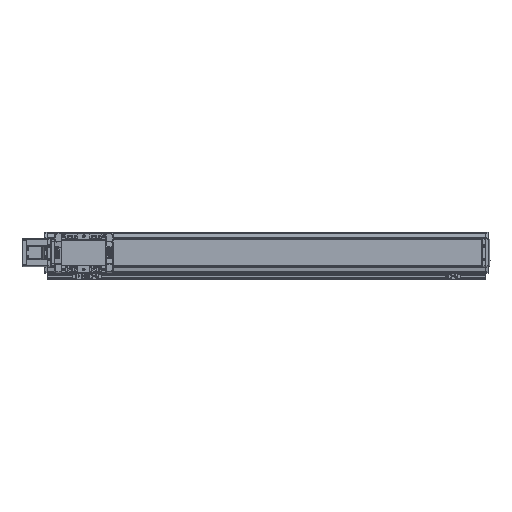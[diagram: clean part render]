
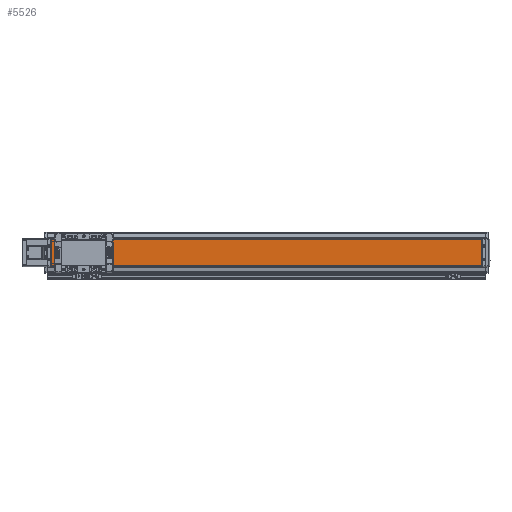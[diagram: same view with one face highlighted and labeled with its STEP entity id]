
A CAD part, top view. The second image highlights one B-rep face of the part: STEP entity #5526.
In plain terms, the highlighted planar face has unit normal (0, 0, 1).
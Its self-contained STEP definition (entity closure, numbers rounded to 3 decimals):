
#5526=ADVANCED_FACE('',(#12920),#12921,.T.);
#12920=FACE_OUTER_BOUND('',#23076,.T.);
#12921=PLANE('',#23077);
#23076=EDGE_LOOP('',(#39131,#39132,#39133,#39134));
#23077=AXIS2_PLACEMENT_3D('',#39135,#39136,#39137);
#39131=ORIENTED_EDGE('',*,*,#58814,.T.);
#39132=ORIENTED_EDGE('',*,*,#63327,.F.);
#39133=ORIENTED_EDGE('',*,*,#63328,.T.);
#39134=ORIENTED_EDGE('',*,*,#60900,.T.);
#39135=CARTESIAN_POINT('',(-580.,0.,20.15));
#39136=DIRECTION('',(0.,0.,1.0));
#39137=DIRECTION('',(0.,-1.0,0.));
#58814=EDGE_CURVE('',#70303,#70307,#70309,.T.);
#60900=EDGE_CURVE('',#73927,#70303,#73928,.T.);
#63327=EDGE_CURVE('',#77832,#70307,#77833,.T.);
#63328=EDGE_CURVE('',#77832,#73927,#77834,.T.);
#70303=VERTEX_POINT('',#86835);
#70307=VERTEX_POINT('',#86841);
#70309=LINE('',#86844,#86845);
#73927=VERTEX_POINT('',#91933);
#73928=LINE('',#91934,#91935);
#77832=VERTEX_POINT('',#97400);
#77833=LINE('',#97401,#97402);
#77834=LINE('',#97403,#97404);
#86835=CARTESIAN_POINT('',(500.,-35.,20.15));
#86841=CARTESIAN_POINT('',(500.,35.,20.15));
#86844=CARTESIAN_POINT('',(500.,35.,20.15));
#86845=VECTOR('',#109027,10.0);
#91933=CARTESIAN_POINT('',(-580.,-35.,20.15));
#91934=CARTESIAN_POINT('',(-580.,-35.,20.15));
#91935=VECTOR('',#111991,10.0);
#97400=CARTESIAN_POINT('',(-580.,35.,20.15));
#97401=CARTESIAN_POINT('',(-580.,35.,20.15));
#97402=VECTOR('',#115386,10.0);
#97403=CARTESIAN_POINT('',(-580.,35.,20.15));
#97404=VECTOR('',#115387,10.0);
#109027=DIRECTION('',(0.,1.0,0.));
#111991=DIRECTION('',(1.0,0.,0.));
#115386=DIRECTION('',(1.0,0.,0.));
#115387=DIRECTION('',(0.,-1.0,0.));
